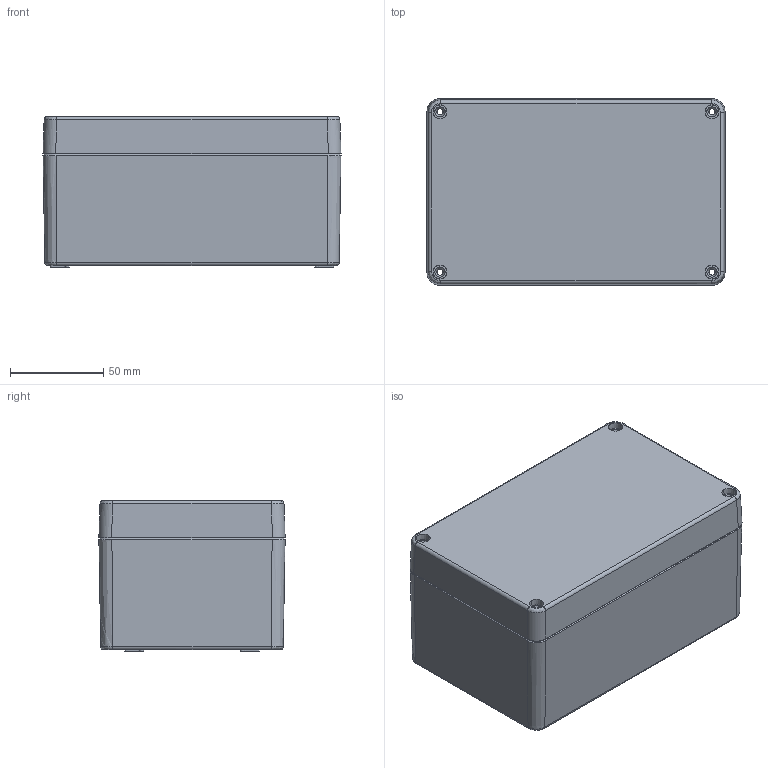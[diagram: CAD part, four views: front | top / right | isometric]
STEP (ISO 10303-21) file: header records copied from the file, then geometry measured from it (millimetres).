
FILE_DESCRIPTION (( 'STEP AP203' ), '1' );
FILE_NAME ('ALU ASSY 16010081.STEP', '2024-08-27T07:35:12', ( '' ), ( '' ), 'SwSTEP 2.0', 'SolidWorks 2018', '' );
FILE_SCHEMA (( 'CONFIG_CONTROL_DESIGN' ));
Length unit declared in the file: millimetre
Products named in the file (3): ALU ASSY 16010081; ALU BASE 16010081; ALU LID 16010081
Assembly tree (2 placements, depth 2):
  ALU ASSY 16010081
    ALU BASE 16010081
    ALU LID 16010081
Bounding box: 159.99 x 99.99 x 81 mm (x, y, z)
Volume: 287451.1 mm3; surface area: 150973.1 mm2
Topology: 2 solids, 2 shells, 678 faces, 1637 edges, 1002 vertices
Faces by surface type: cylinder 250, plane 230, bspline 120, cone 78
Entity records: 26125 total; most frequent: CARTESIAN_POINT 10932, ORIENTED_EDGE 3224, DIRECTION 2862, EDGE_CURVE 1612, AXIS2_PLACEMENT_3D 1030, VERTEX_POINT 1002, VECTOR 802, LINE 802
